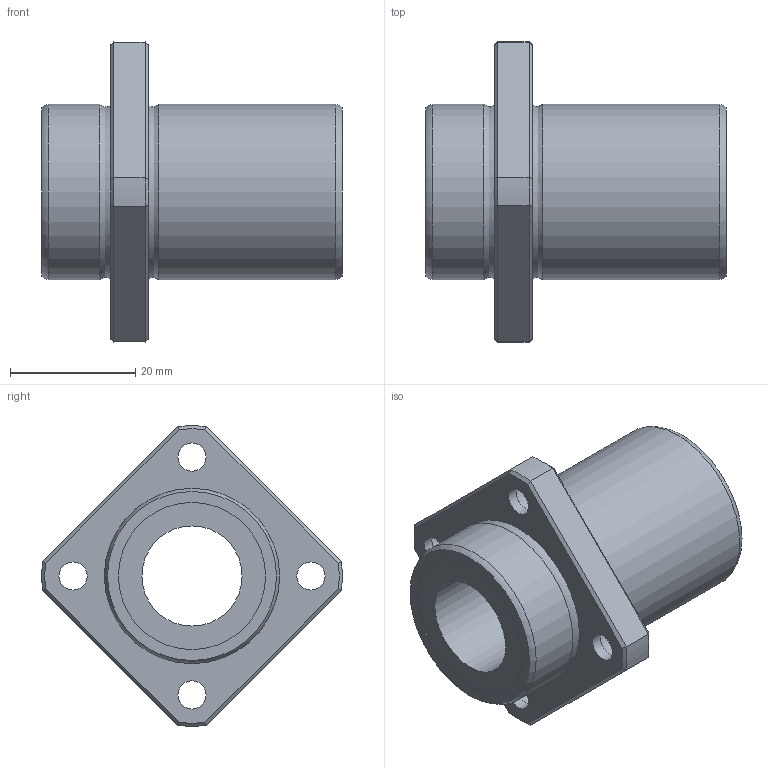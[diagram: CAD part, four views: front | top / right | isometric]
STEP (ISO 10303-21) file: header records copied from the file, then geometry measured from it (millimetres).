
FILE_DESCRIPTION((''),'2;1');
FILE_NAME('C:\Documents and Settings\土屋\My Documents\土屋移動用フォルダ\製品 (図面)\カタログ用3D\変換ファイル\OZAK_3D-CAD(STEP形式)\Part1.-Linear Bearings_ﾘﾆｱﾍﾞｱﾘﾝｸﾞ\09_Maintenance Free_ﾒｲﾝﾃﾅﾝｽﾌﾘｰ\L2017-09-21T13:30:57','2017-09-21T13:30:57',('y'),(''),'Autodesk Inventor 11','Autodesk Inventor 11','');
FILE_SCHEMA(('AUTOMOTIVE_DESIGN { 1 0 10303 214 1 1 1 1 }'));
Length unit declared in the file: millimetre
Products named in the file (1): LFKB-MF
Bounding box: 48 x 47.98 x 47.98 mm (x, y, z)
Volume: 23126.3 mm3; surface area: 9557.8 mm2
Topology: 1 solids, 1 shells, 51 faces, 103 edges, 62 vertices
Faces by surface type: plane 18, bspline 14, cylinder 9, cone 8, torus 2
Full cylindrical faces by diameter (mm): 16 x1, 23.5 x2, 28 x2
Entity records: 1517 total; most frequent: CARTESIAN_POINT 520, DIRECTION 192, ORIENTED_EDGE 172, EDGE_CURVE 86, EDGE_LOOP 86, AXIS2_PLACEMENT_3D 84, VERTEX_POINT 62, FACE_OUTER_BOUND 51
